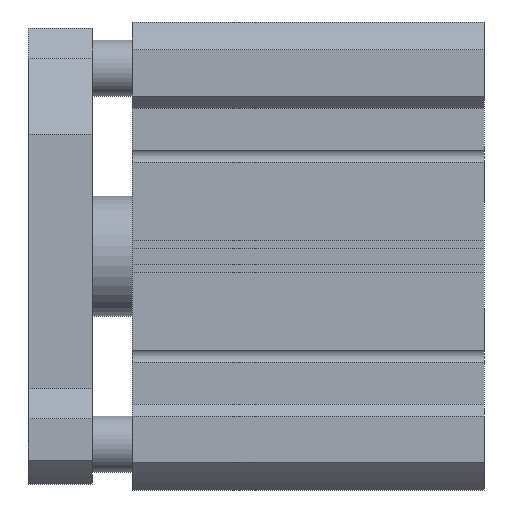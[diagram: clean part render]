
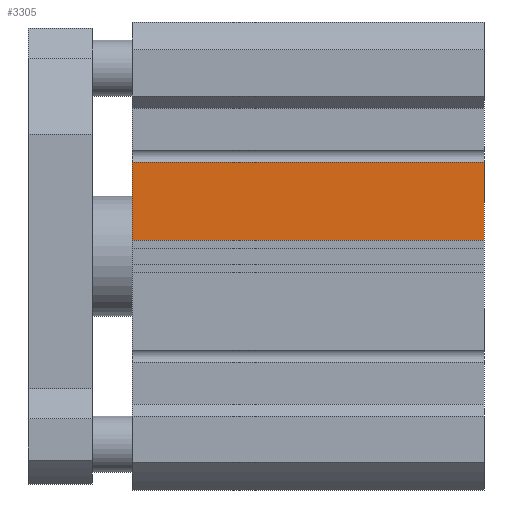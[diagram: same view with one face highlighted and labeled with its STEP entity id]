
A CAD part, front view. The second image highlights one B-rep face of the part: STEP entity #3305.
In plain terms, the highlighted planar face has unit normal (0, -1, 0).
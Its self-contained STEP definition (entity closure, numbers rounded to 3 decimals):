
#400 = LINE ( 'NONE', #5154, #4350 ) ;
#411 = CARTESIAN_POINT ( 'NONE',  ( 0., -55.5, 4. ) ) ;
#1023 = CARTESIAN_POINT ( 'NONE',  ( 88., -55.5, 23.5 ) ) ;
#1052 = CARTESIAN_POINT ( 'NONE',  ( 88., -55.5, 4. ) ) ;
#1079 = EDGE_CURVE ( 'NONE', #3924, #2762, #4812, .T. ) ;
#1108 = CARTESIAN_POINT ( 'NONE',  ( 88., -55.5, 4. ) ) ;
#1426 = FACE_OUTER_BOUND ( 'NONE', #1945, .T. ) ;
#1566 = ORIENTED_EDGE ( 'NONE', *, *, #1079, .F. ) ;
#1600 = DIRECTION ( 'NONE',  ( 0., 0., -1. ) ) ;
#1624 = ORIENTED_EDGE ( 'NONE', *, *, #4681, .T. ) ;
#1643 = AXIS2_PLACEMENT_3D ( 'NONE', #1023, #2452, #3868 ) ;
#1945 = EDGE_LOOP ( 'NONE', ( #2788, #1566, #5602, #1624 ) ) ;
#1955 = DIRECTION ( 'NONE',  ( 0., 0., -1. ) ) ;
#2014 = LINE ( 'NONE', #5707, #5127 ) ;
#2058 = VERTEX_POINT ( 'NONE', #2300 ) ;
#2300 = CARTESIAN_POINT ( 'NONE',  ( 88., -55.5, 23.5 ) ) ;
#2452 = DIRECTION ( 'NONE',  ( 0., 1., 0. ) ) ;
#2762 = VERTEX_POINT ( 'NONE', #411 ) ;
#2788 = ORIENTED_EDGE ( 'NONE', *, *, #4890, .T. ) ;
#2821 = DIRECTION ( 'NONE',  ( -1., 0., 0. ) ) ;
#2944 = DIRECTION ( 'NONE',  ( -1., 0., 0. ) ) ;
#3000 = VECTOR ( 'NONE', #1600, 1000. ) ;
#3305 = ADVANCED_FACE ( 'NONE', ( #1426 ), #4723, .F. ) ;
#3510 = CARTESIAN_POINT ( 'NONE',  ( 88., -55.5, 23.5 ) ) ;
#3868 = DIRECTION ( 'NONE',  ( 1., 0., 0. ) ) ;
#3924 = VERTEX_POINT ( 'NONE', #1108 ) ;
#4079 = VECTOR ( 'NONE', #2944, 1000. ) ;
#4214 = EDGE_CURVE ( 'NONE', #2058, #3924, #5853, .T. ) ;
#4350 = VECTOR ( 'NONE', #2821, 1000. ) ;
#4536 = CARTESIAN_POINT ( 'NONE',  ( 0., -55.5, 23.5 ) ) ;
#4681 = EDGE_CURVE ( 'NONE', #2058, #5170, #400, .T. ) ;
#4723 = PLANE ( 'NONE',  #1643 ) ;
#4812 = LINE ( 'NONE', #1052, #4079 ) ;
#4890 = EDGE_CURVE ( 'NONE', #5170, #2762, #2014, .T. ) ;
#5127 = VECTOR ( 'NONE', #1955, 1000. ) ;
#5154 = CARTESIAN_POINT ( 'NONE',  ( 88., -55.5, 23.5 ) ) ;
#5170 = VERTEX_POINT ( 'NONE', #4536 ) ;
#5602 = ORIENTED_EDGE ( 'NONE', *, *, #4214, .F. ) ;
#5707 = CARTESIAN_POINT ( 'NONE',  ( 0., -55.5, 23.5 ) ) ;
#5853 = LINE ( 'NONE', #3510, #3000 ) ;
